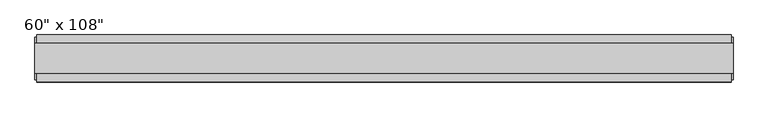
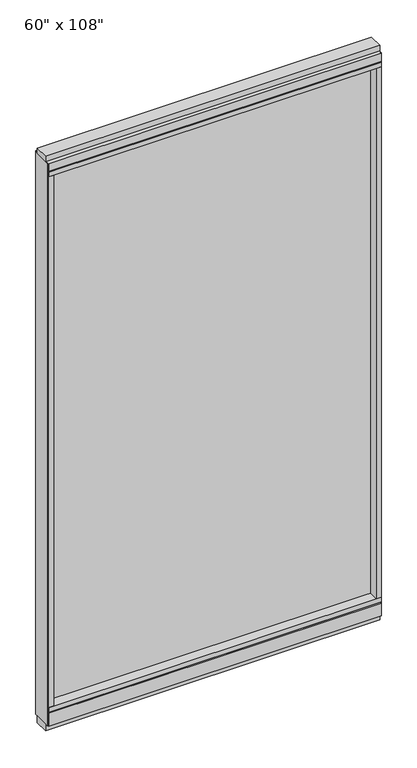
"""IFC4 building model written with IfcOpenShell, lengths in millimetres: furniture geometry."""

from ifc_helpers import new_model, si_unit, frame, origin, origin_with_axes, place, context, project, spatial, polyline, outline, extrude, source, transform, mapped, element, save


def furniture_5523d685(model_context):
    return source(origin(), model_context, "Body", "SweptSolid", [
        extrude(outline(polyline([(669.4514771, 9.5977216), (669.4514771, -0.5622784), (-789.5245229, -0.5622784), (-789.5245229, 9.5977216), (669.4514771, 9.5977216)])), frame((0.0, 0.0, 120.523), z_axis=(0.0, 0.0, 1.0), x_axis=(1.0, 0.0, 0.0)), (0.0, 0.0, 1.0), 2533.777),
        extrude(outline(polyline([(55.3177216, 93.345), (55.3177216, 31.75), (-46.2822784, 31.75), (-46.2822784, 93.345), (-41.3292784, 93.345), (-41.3292784, 98.298), (50.3647216, 98.298), (50.3647216, 93.345), (55.3177216, 93.345)])), frame((-811.7495229, 0.0, 0.0), z_axis=(1.0, 0.0, 0.0), x_axis=(0.0, 1.0, 0.0)), (0.0, 0.0, 1.0), 1503.426),
        extrude(outline(polyline([(-811.7495229, 55.3177216), (691.6764771, 55.3177216), (691.6764771, -46.2822784), (-811.7495229, -46.2822784), (-811.7495229, 55.3177216)])), frame((0.0, 0.0, 98.298), z_axis=(0.0, 0.0, 1.0), x_axis=(1.0, 0.0, 0.0)), (0.0, 0.0, 1.0), 22.225),
        extrude(outline(polyline([(695.6134771, -27.9942784), (-815.6865229, -27.9942784), (-815.6865229, 37.0297216), (695.6134771, 37.0297216), (695.6134771, -27.9942784)])), origin_with_axes(), (0.0, 0.0, 1.0), 31.75),
        extrude(outline(polyline([(-815.6865229, 37.0297216), (695.6134771, 37.0297216), (695.6134771, -27.9942784), (-815.6865229, -27.9942784), (-815.6865229, 37.0297216)])), frame((0.0, 0.0, 2717.8), z_axis=(0.0, 0.0, 1.0), x_axis=(1.0, 0.0, 0.0)), (0.0, 0.0, 1.0), 25.4),
        extrude(outline(polyline([(55.3177216, 2681.478), (50.3647216, 2681.478), (50.3647216, 2676.525), (-41.3292784, 2676.525), (-41.3292784, 2681.478), (-46.2822784, 2681.478), (-46.2822784, 2717.8), (55.3177216, 2717.8), (55.3177216, 2681.478)])), frame((-811.7495229, 0.0, 0.0), z_axis=(1.0, 0.0, 0.0), x_axis=(0.0, 1.0, 0.0)), (0.0, 0.0, 1.0), 1503.426),
        extrude(outline(polyline([(691.6764771, -46.2822784), (-811.7495229, -46.2822784), (-811.7495229, 55.3177216), (691.6764771, 55.3177216), (691.6764771, -46.2822784)])), frame((0.0, 0.0, 2654.3), z_axis=(0.0, 0.0, 1.0), x_axis=(1.0, 0.0, 0.0)), (0.0, 0.0, 1.0), 22.225),
        extrude(outline(polyline([(669.4514771, 55.3177216), (691.6764771, 55.3177216), (691.6764771, -46.2822784), (669.4514771, -46.2822784), (669.4514771, 55.3177216)])), frame((0.0, 0.0, 120.523), z_axis=(0.0, 0.0, 1.0), x_axis=(1.0, 0.0, 0.0)), (0.0, 0.0, 1.0), 2533.777),
        extrude(outline(polyline([(-789.5245229, 55.3177216), (-789.5245229, -46.2822784), (-811.7495229, -46.2822784), (-811.7495229, 55.3177216), (-789.5245229, 55.3177216)])), frame((0.0, 0.0, 120.523), z_axis=(0.0, 0.0, 1.0), x_axis=(1.0, 0.0, 0.0)), (0.0, 0.0, 1.0), 2533.777),
        extrude(outline(polyline([(695.6134771, 50.3647216), (695.6134771, -41.3292784), (691.6764771, -41.3292784), (691.6764771, 50.3647216), (695.6134771, 50.3647216)])), frame((0.0, 0.0, 31.75), z_axis=(0.0, 0.0, 1.0), x_axis=(1.0, 0.0, 0.0)), (0.0, 0.0, 1.0), 2686.05),
        extrude(outline(polyline([(-815.6865229, 50.3647216), (-811.7495229, 50.3647216), (-811.7495229, -41.3292784), (-815.6865229, -41.3292784), (-815.6865229, 50.3647216)])), frame((0.0, 0.0, 31.75), z_axis=(0.0, 0.0, 1.0), x_axis=(1.0, 0.0, 0.0)), (0.0, 0.0, 1.0), 2686.05),
    ])


if __name__ == "__main__":
    model = new_model("IFC4")
    model_context = context("Model", 3, world=origin())
    ifc_project = project(units=[si_unit("LENGTHUNIT", "METRE", prefix="MILLI")], contexts=[model_context])
    site = spatial("IfcSite", under=ifc_project)
    building = spatial("IfcBuilding", under=site)
    placement = place(None, origin())
    furniture_shape = furniture_5523d685(model_context)
    element("IfcFurniture", 1, ObjectType="Haworth_Enclose_Wall_Glass : 60\" x 108\"", at=placement, inside=building, context=model_context, shape_type="MappedRepresentation", body=[
        mapped(furniture_shape, transform((0.0, 0.0, 0.0), x_axis=(1.0, 0.0, 0.0), y_axis=(0.0, 1.0, 0.0), z_axis=(0.0, 0.0, 1.0))),
    ])
    save(model, "model.ifc")
